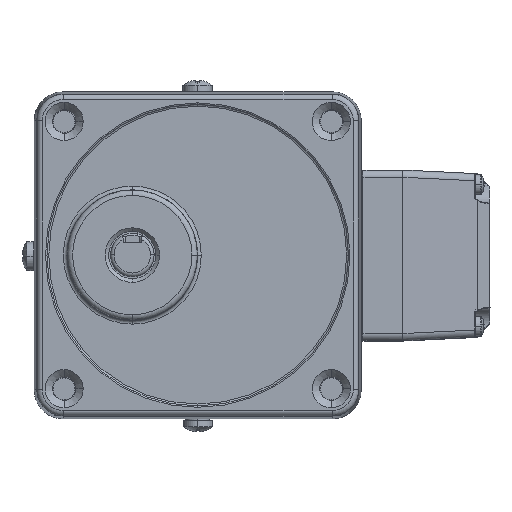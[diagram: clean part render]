
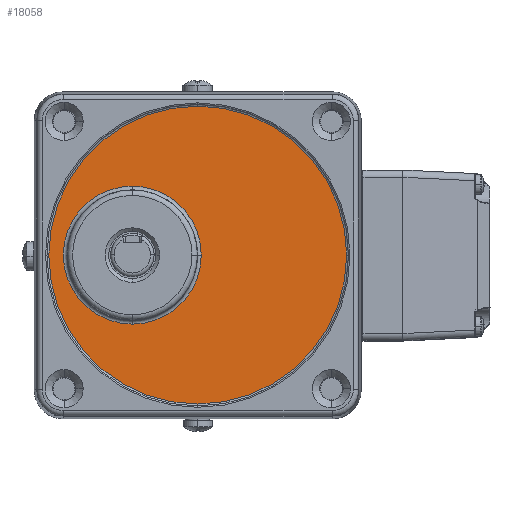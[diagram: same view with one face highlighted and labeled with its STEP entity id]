
A CAD part, top view. The second image highlights one B-rep face of the part: STEP entity #18058.
In plain terms, the highlighted planar face has unit normal (0, 0, 1) as drawn and (1, 0, 0) by its records, which use the part's own axes.
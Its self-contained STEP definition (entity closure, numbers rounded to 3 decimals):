
#908 = PLANE ( 'NONE',  #21372 ) ;
#1141 = CARTESIAN_POINT ( 'NONE',  ( 2679.792, -793.157, 0. ) ) ;
#1435 = FACE_OUTER_BOUND ( 'NONE', #22790, .T. ) ;
#4338 = DIRECTION ( 'NONE',  ( 0., 1., 0. ) ) ;
#7044 = DIRECTION ( 'NONE',  ( 0., 0., 1. ) ) ;
#8292 = AXIS2_PLACEMENT_3D ( 'NONE', #38781, #51066, #31171 ) ;
#9014 = EDGE_CURVE ( 'NONE', #39976, #11491, #28831, .T. ) ;
#9780 = CARTESIAN_POINT ( 'NONE',  ( 2679.792, -793.157, 18.983 ) ) ;
#10268 = CARTESIAN_POINT ( 'NONE',  ( 2679.792, -774.175, 0. ) ) ;
#11265 = VERTEX_POINT ( 'NONE', #41714 ) ;
#11491 = VERTEX_POINT ( 'NONE', #12085 ) ;
#12085 = CARTESIAN_POINT ( 'NONE',  ( 2679.792, -734.166, 0. ) ) ;
#12414 = AXIS2_PLACEMENT_3D ( 'NONE', #14152, #25913, #30125 ) ;
#12416 = EDGE_LOOP ( 'NONE', ( #16887, #45888, #15579 ) ) ;
#13260 = VERTEX_POINT ( 'NONE', #10268 ) ;
#13472 = CARTESIAN_POINT ( 'NONE',  ( 2679.792, -775.157, 0. ) ) ;
#14152 = CARTESIAN_POINT ( 'NONE',  ( 2679.792, -793.157, 0. ) ) ;
#15579 = ORIENTED_EDGE ( 'NONE', *, *, #42718, .F. ) ;
#16325 = AXIS2_PLACEMENT_3D ( 'NONE', #51306, #23257, #7044 ) ;
#16880 = DIRECTION ( 'NONE',  ( 1., 0., 0. ) ) ;
#16887 = ORIENTED_EDGE ( 'NONE', *, *, #22128, .F. ) ;
#17000 = CIRCLE ( 'NONE', #47998, 18.983 ) ;
#17486 = CIRCLE ( 'NONE', #8292, 40.991 ) ;
#18058 = ADVANCED_FACE ( 'NONE', ( #1435, #20783 ), #908, .T. ) ;
#18653 = EDGE_CURVE ( 'NONE', #11265, #39976, #46121, .T. ) ;
#19422 = AXIS2_PLACEMENT_3D ( 'NONE', #1141, #49854, #25722 ) ;
#19772 = CARTESIAN_POINT ( 'NONE',  ( 2679.792, -793.157, 0. ) ) ;
#20267 = CIRCLE ( 'NONE', #19422, 18.983 ) ;
#20783 = FACE_BOUND ( 'NONE', #12416, .T. ) ;
#21372 = AXIS2_PLACEMENT_3D ( 'NONE', #13472, #16880, #4338 ) ;
#21597 = CIRCLE ( 'NONE', #12414, 18.983 ) ;
#22128 = EDGE_CURVE ( 'NONE', #30706, #13260, #21597, .T. ) ;
#22790 = EDGE_LOOP ( 'NONE', ( #40686, #43512, #42119 ) ) ;
#23257 = DIRECTION ( 'NONE',  ( -1., 0., 0. ) ) ;
#23542 = AXIS2_PLACEMENT_3D ( 'NONE', #45633, #34116, #38036 ) ;
#25033 = CARTESIAN_POINT ( 'NONE',  ( 2679.792, -793.157, -18.983 ) ) ;
#25722 = DIRECTION ( 'NONE',  ( 0., 0., -1. ) ) ;
#25913 = DIRECTION ( 'NONE',  ( 1., 0., 0. ) ) ;
#28087 = EDGE_CURVE ( 'NONE', #11491, #11265, #17486, .T. ) ;
#28831 = CIRCLE ( 'NONE', #16325, 40.991 ) ;
#30125 = DIRECTION ( 'NONE',  ( 0., 0., -1. ) ) ;
#30706 = VERTEX_POINT ( 'NONE', #25033 ) ;
#31171 = DIRECTION ( 'NONE',  ( 0., 0., 1. ) ) ;
#34116 = DIRECTION ( 'NONE',  ( -1., 0., 0. ) ) ;
#38036 = DIRECTION ( 'NONE',  ( 0., 0., -1. ) ) ;
#38781 = CARTESIAN_POINT ( 'NONE',  ( 2679.792, -775.157, 0. ) ) ;
#39976 = VERTEX_POINT ( 'NONE', #51222 ) ;
#40686 = ORIENTED_EDGE ( 'NONE', *, *, #18653, .F. ) ;
#41714 = CARTESIAN_POINT ( 'NONE',  ( 2679.792, -775.157, -40.991 ) ) ;
#42119 = ORIENTED_EDGE ( 'NONE', *, *, #9014, .F. ) ;
#42718 = EDGE_CURVE ( 'NONE', #13260, #47909, #20267, .T. ) ;
#43512 = ORIENTED_EDGE ( 'NONE', *, *, #28087, .F. ) ;
#45633 = CARTESIAN_POINT ( 'NONE',  ( 2679.792, -775.157, 0. ) ) ;
#45888 = ORIENTED_EDGE ( 'NONE', *, *, #48270, .F. ) ;
#46121 = CIRCLE ( 'NONE', #23542, 40.991 ) ;
#47559 = DIRECTION ( 'NONE',  ( 1., 0., 0. ) ) ;
#47909 = VERTEX_POINT ( 'NONE', #9780 ) ;
#47998 = AXIS2_PLACEMENT_3D ( 'NONE', #19772, #47559, #50959 ) ;
#48270 = EDGE_CURVE ( 'NONE', #47909, #30706, #17000, .T. ) ;
#49854 = DIRECTION ( 'NONE',  ( 1., 0., 0. ) ) ;
#50959 = DIRECTION ( 'NONE',  ( 0., 0., 1. ) ) ;
#51066 = DIRECTION ( 'NONE',  ( -1., 0., 0. ) ) ;
#51222 = CARTESIAN_POINT ( 'NONE',  ( 2679.792, -775.157, 40.991 ) ) ;
#51306 = CARTESIAN_POINT ( 'NONE',  ( 2679.792, -775.157, 0. ) ) ;
